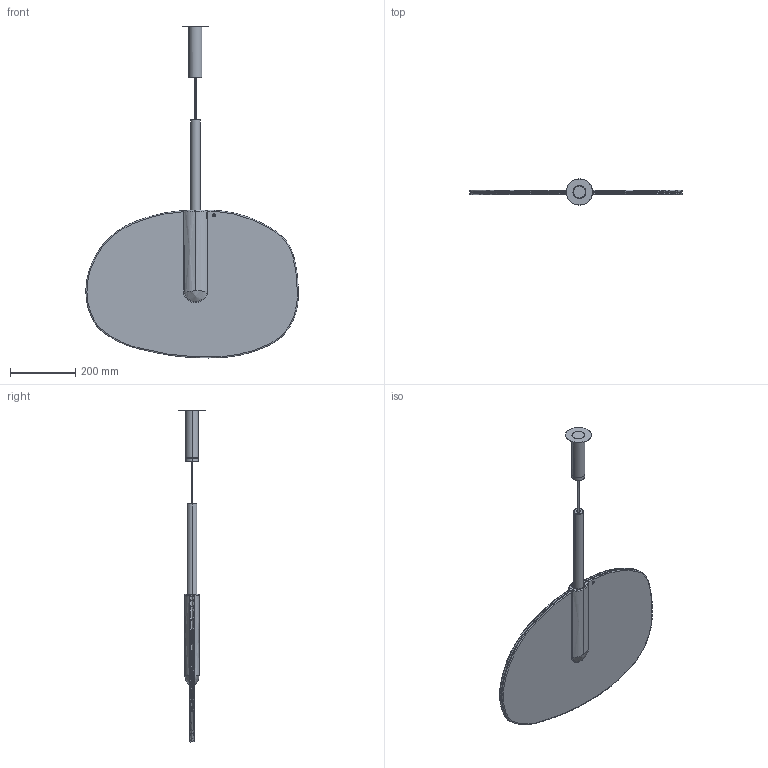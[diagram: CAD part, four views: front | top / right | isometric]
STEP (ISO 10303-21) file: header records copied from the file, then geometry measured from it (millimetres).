
FILE_DESCRIPTION(/* description */ (''),/* implementation_level */ '2;1');
FILE_NAME(/* name */ 'Lollipop Pendant C',/* time_stamp */ '2019-01-25T10:46:54+01:00',/* author */ (''),/* organization */ (''),/* preprocessor_version */ 'ST-DEVELOPER v15',/* originating_system */ '',/* authorisation */ '');
FILE_SCHEMA (('AUTOMOTIVE_DESIGN'));
Length unit declared in the file: millimetre
Products named in the file (1): Document
Bounding box: 652.45 x 79.93 x 1020.3 mm (x, y, z)
Volume: 128910.8 mm3; surface area: 1162705 mm2
Topology: 7 solids, 9 shells, 454 faces, 1198 edges, 764 vertices
Faces by surface type: bspline 454
Entity records: 33290 total; most frequent: CARTESIAN_POINT 17985, B_SPLINE_CURVE_WITH_KNOTS 3196, ORIENTED_EDGE 2376, PCURVE 2376, DEFINITIONAL_REPRESENTATION 2376, SURFACE_CURVE 1194, EDGE_CURVE 1194, VERTEX_POINT 764
